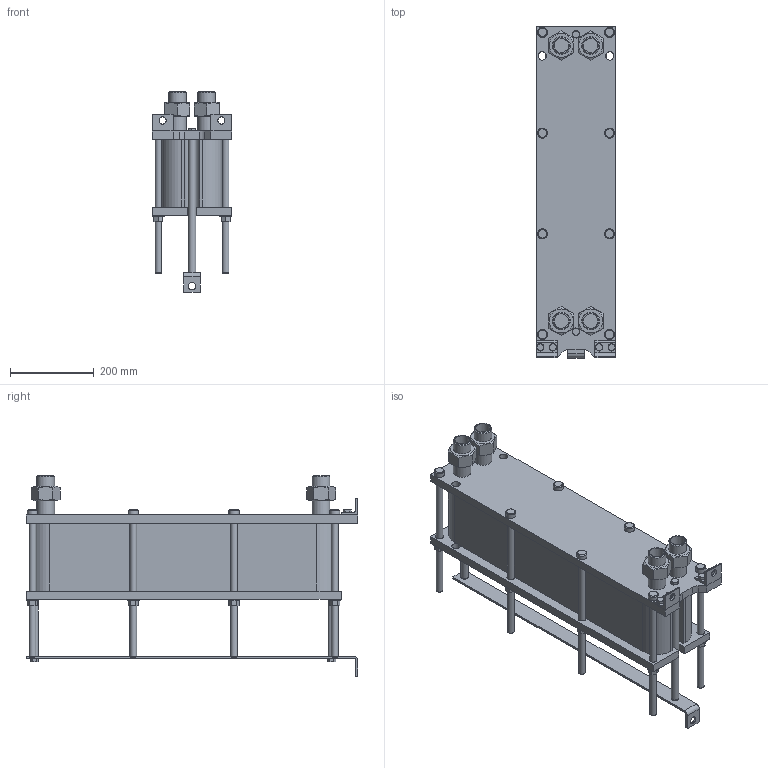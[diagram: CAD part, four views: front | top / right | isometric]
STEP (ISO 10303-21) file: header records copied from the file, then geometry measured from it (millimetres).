
FILE_DESCRIPTION(/* description */ (''),/* implementation_level */ '2;1');
FILE_NAME(/* name */ 'C:\Users\zhuro\Desktop\ENCO\TO\ЭН-008\ЭН-0,5-008-52-1.stp',/* time_stamp */ '2022-06-06T10:49:33+03:00',/* author */ ('zhuro'),/* organization */ (''),/* preprocessor_version */ 'ST-DEVELOPER v18.1',/* originating_system */ 'Autodesk Inventor 2022',/* authorisation */ '');
FILE_SCHEMA (('AUTOMOTIVE_DESIGN { 1 0 10303 214 3 1 1 }'));
Length unit declared in the file: millimetre
Products named in the file (1): ЭН-0,5-008-52-1
Bounding box: 190 x 790 x 478.6 mm (x, y, z)
Volume: 23200755.4 mm3; surface area: 1615500.9 mm2
Topology: 40 solids, 40 shells, 428 faces, 924 edges, 606 vertices
Faces by surface type: plane 273, cylinder 109, cone 40, torus 6
Full cylindrical faces by diameter (mm): 12 x6, 14 x2, 16 x20, 17 x8, 18 x19, 20 x5, 24 x8, 28 x8, 34.3 x8, 42.3 x8
Entity records: 15843 total; most frequent: CARTESIAN_POINT 5991, DIRECTION 1984, ORIENTED_EDGE 1848, EDGE_CURVE 924, AXIS2_PLACEMENT_3D 715, VERTEX_POINT 606, LINE 554, VECTOR 554
